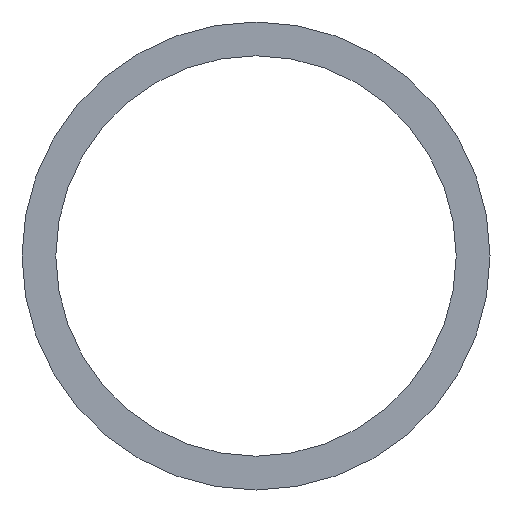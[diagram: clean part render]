
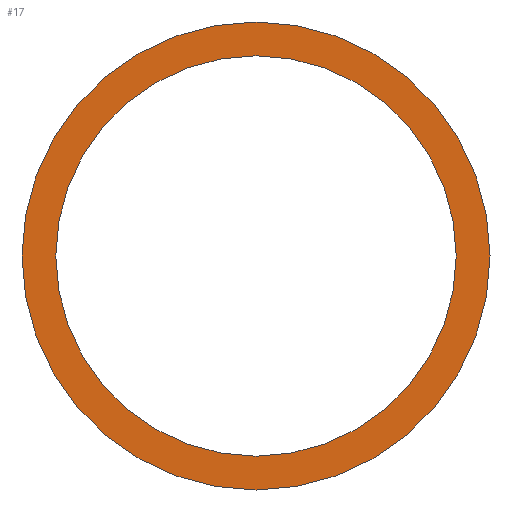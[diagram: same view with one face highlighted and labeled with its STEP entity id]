
A CAD part, left-side view. The second image highlights one B-rep face of the part: STEP entity #17.
In plain terms, the highlighted planar face has unit normal (-1, 0, 0).
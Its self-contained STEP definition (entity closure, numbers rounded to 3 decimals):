
#17 = ADVANCED_FACE('',(#18,#54),#31,.F.);
#18 = FACE_BOUND('',#19,.T.);
#19 = EDGE_LOOP('',(#20));
#20 = ORIENTED_EDGE('',*,*,#21,.T.);
#21 = EDGE_CURVE('',#22,#22,#24,.T.);
#22 = VERTEX_POINT('',#23);
#23 = CARTESIAN_POINT('',(19.5,19.25,0.));
#24 = SURFACE_CURVE('',#25,(#30,#42),.PCURVE_S1.);
#25 = CIRCLE('',#26,19.25);
#26 = AXIS2_PLACEMENT_3D('',#27,#28,#29);
#27 = CARTESIAN_POINT('',(19.5,0.,0.));
#28 = DIRECTION('',(1.,0.,0.));
#29 = DIRECTION('',(-0.,1.,0.));
#30 = PCURVE('',#31,#36);
#31 = PLANE('',#32);
#32 = AXIS2_PLACEMENT_3D('',#33,#34,#35);
#33 = CARTESIAN_POINT('',(19.5,0.,0.));
#34 = DIRECTION('',(1.,0.,0.));
#35 = DIRECTION('',(-0.,1.,0.));
#36 = DEFINITIONAL_REPRESENTATION('',(#37),#41);
#37 = CIRCLE('',#38,19.25);
#38 = AXIS2_PLACEMENT_2D('',#39,#40);
#39 = CARTESIAN_POINT('',(0.,0.));
#40 = DIRECTION('',(1.,-0.));
#41 = ( GEOMETRIC_REPRESENTATION_CONTEXT(2) 
PARAMETRIC_REPRESENTATION_CONTEXT() REPRESENTATION_CONTEXT('2D SPACE',''
  ) );
#42 = PCURVE('',#43,#48);
#43 = CYLINDRICAL_SURFACE('',#44,19.25);
#44 = AXIS2_PLACEMENT_3D('',#45,#46,#47);
#45 = CARTESIAN_POINT('',(20.3,0.,0.));
#46 = DIRECTION('',(-1.,-0.,-0.));
#47 = DIRECTION('',(0.,1.,0.));
#48 = DEFINITIONAL_REPRESENTATION('',(#49),#53);
#49 = LINE('',#50,#51);
#50 = CARTESIAN_POINT('',(-0.,0.8));
#51 = VECTOR('',#52,1.);
#52 = DIRECTION('',(-1.,0.));
#53 = ( GEOMETRIC_REPRESENTATION_CONTEXT(2) 
PARAMETRIC_REPRESENTATION_CONTEXT() REPRESENTATION_CONTEXT('2D SPACE',''
  ) );
#54 = FACE_BOUND('',#55,.T.);
#55 = EDGE_LOOP('',(#56));
#56 = ORIENTED_EDGE('',*,*,#57,.F.);
#57 = EDGE_CURVE('',#58,#58,#60,.T.);
#58 = VERTEX_POINT('',#59);
#59 = CARTESIAN_POINT('',(19.5,22.5,0.));
#60 = SURFACE_CURVE('',#61,(#66,#73),.PCURVE_S1.);
#61 = CIRCLE('',#62,22.5);
#62 = AXIS2_PLACEMENT_3D('',#63,#64,#65);
#63 = CARTESIAN_POINT('',(19.5,0.,0.));
#64 = DIRECTION('',(1.,0.,0.));
#65 = DIRECTION('',(-0.,1.,0.));
#66 = PCURVE('',#31,#67);
#67 = DEFINITIONAL_REPRESENTATION('',(#68),#72);
#68 = CIRCLE('',#69,22.5);
#69 = AXIS2_PLACEMENT_2D('',#70,#71);
#70 = CARTESIAN_POINT('',(0.,0.));
#71 = DIRECTION('',(1.,-0.));
#72 = ( GEOMETRIC_REPRESENTATION_CONTEXT(2) 
PARAMETRIC_REPRESENTATION_CONTEXT() REPRESENTATION_CONTEXT('2D SPACE',''
  ) );
#73 = PCURVE('',#74,#79);
#74 = CYLINDRICAL_SURFACE('',#75,22.5);
#75 = AXIS2_PLACEMENT_3D('',#76,#77,#78);
#76 = CARTESIAN_POINT('',(19.5,0.,0.));
#77 = DIRECTION('',(1.,0.,0.));
#78 = DIRECTION('',(-0.,1.,0.));
#79 = DEFINITIONAL_REPRESENTATION('',(#80),#84);
#80 = LINE('',#81,#82);
#81 = CARTESIAN_POINT('',(0.,0.));
#82 = VECTOR('',#83,1.);
#83 = DIRECTION('',(1.,0.));
#84 = ( GEOMETRIC_REPRESENTATION_CONTEXT(2) 
PARAMETRIC_REPRESENTATION_CONTEXT() REPRESENTATION_CONTEXT('2D SPACE',''
  ) );
